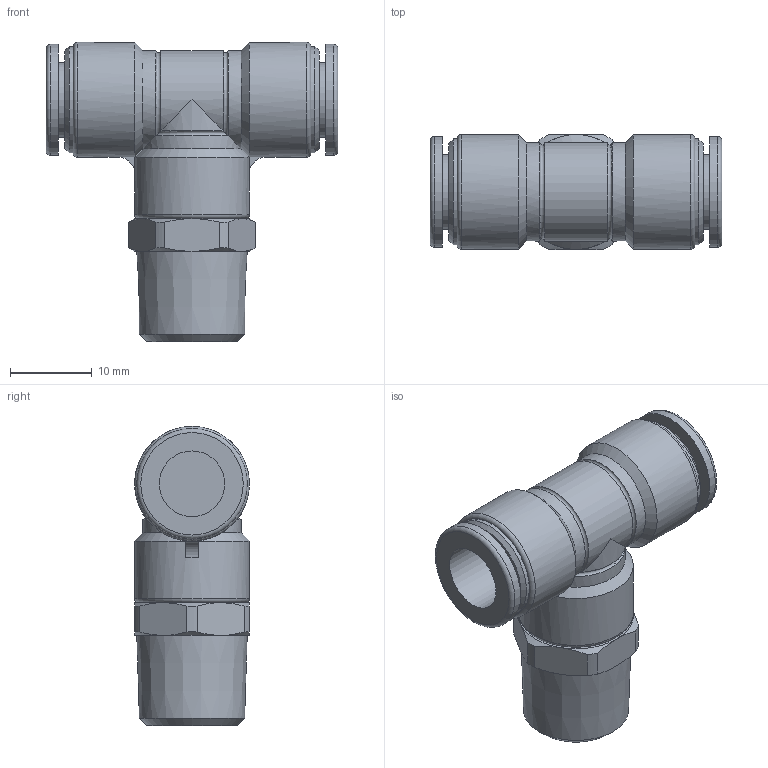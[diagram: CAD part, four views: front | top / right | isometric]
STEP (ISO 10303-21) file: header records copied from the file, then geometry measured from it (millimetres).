
FILE_DESCRIPTION(/* description */ (''),/* implementation_level */ '2;1');
FILE_NAME(/* name */ 'E:\2013年度版　3D-DATA\【02】 TOUCH CONNECTOR FIVE SUS\[03] MALE BRANCH TEE\[09] FS8-02MT FS8-02MTW.stp',/* time_stamp */ '2013-08-06T16:53:02+09:00',/* author */ ('takahashi-pc2'),/* organization */ (''),/* preprocessor_version */ 'ST-DEVELOPER v15.2',/* originating_system */ 'Autodesk Inventor 2014',/* authorisation */ '');
FILE_SCHEMA (('AUTOMOTIVE_DESIGN { 1 0 10303 214 3 1 1 }'));
Length unit declared in the file: millimetre
Products named in the file (1): [09] FS8-02MT FS8-02MTW
Bounding box: 35.6 x 14 x 36.5 mm (x, y, z)
Volume: 6853.7 mm3; surface area: 3882.2 mm2
Topology: 1 solids, 1 shells, 86 faces, 194 edges, 120 vertices
Faces by surface type: plane 31, cylinder 26, cone 20, torus 9
Full cylindrical faces by diameter (mm): 8 x2, 9.1 x2, 12.9 x2, 13.5 x2, 14 x3
Entity records: 2363 total; most frequent: CARTESIAN_POINT 539, DIRECTION 396, ORIENTED_EDGE 346, AXIS2_PLACEMENT_3D 176, EDGE_CURVE 173, VERTEX_POINT 119, EDGE_LOOP 116, ADVANCED_FACE 86
